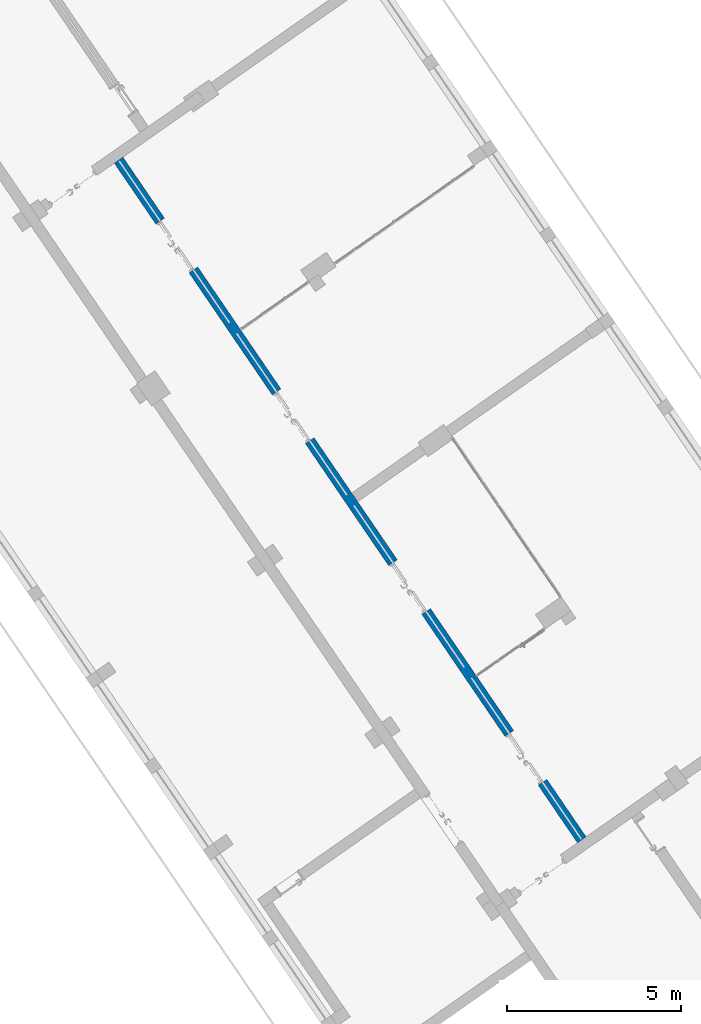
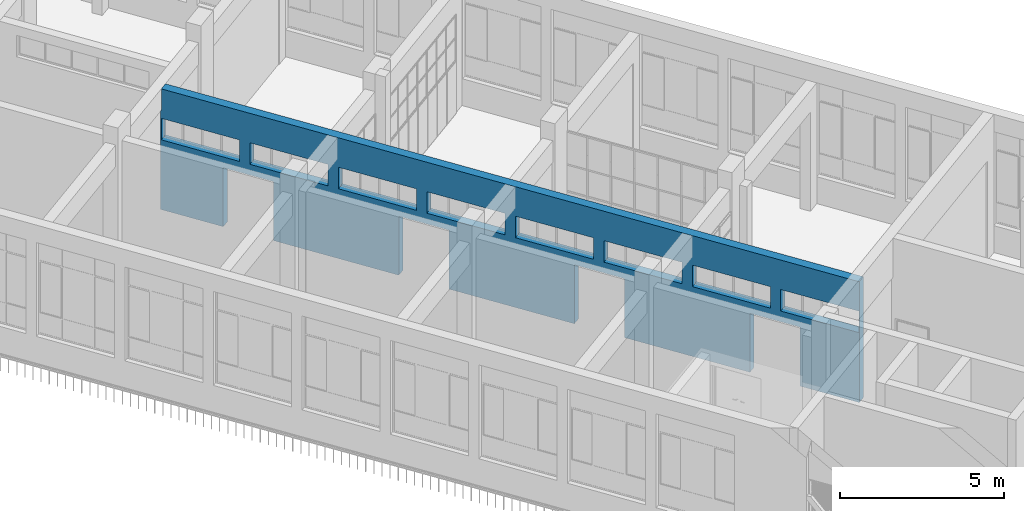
# One storey, part 122 of 157: 1 wall, 12 openings.
"""IFC2X3 building model written with IfcOpenShell, lengths in millimetres."""

from ifc_helpers import new_model, entity, si_unit, converted_unit, derived_unit, direction, frame, frame_2d, origin, place, context, subcontext, project, spatial, rectangle, extrude, faceted_brep, material, layer, layer_set, type_object, element, save


model = new_model("IFC2X3")

# Units and contexts
model_context = context("Model", 3, precision=0.01, world=origin(), true_north=direction((6.123031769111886e-17, 1.0)))
body_context = subcontext(model_context, "Body", "Model", "MODEL_VIEW")
ifc_project = project(units=[si_unit("LENGTHUNIT", "METRE", prefix="MILLI"), si_unit("AREAUNIT", "SQUARE_METRE"), si_unit("VOLUMEUNIT", "CUBIC_METRE"), converted_unit("PLANEANGLEUNIT", "DEGREE", entity("IfcRatioMeasure", 0.017453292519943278), si_unit("PLANEANGLEUNIT", "RADIAN"), dimensions=[0, 0, 0, 0, 0, 0, 0]), si_unit("MASSUNIT", "GRAM", prefix="KILO"), derived_unit("MASSDENSITYUNIT", [(si_unit("MASSUNIT", "GRAM", prefix="KILO"), 1), (si_unit("LENGTHUNIT", "METRE"), -3)]), derived_unit("MOMENTOFINERTIAUNIT", [(si_unit("LENGTHUNIT", "METRE"), 4)]), si_unit("TIMEUNIT", "SECOND"), si_unit("FREQUENCYUNIT", "HERTZ"), si_unit("THERMODYNAMICTEMPERATUREUNIT", "DEGREE_CELSIUS"), derived_unit("THERMALTRANSMITTANCEUNIT", [(si_unit("MASSUNIT", "GRAM", prefix="KILO"), 1), (si_unit("THERMODYNAMICTEMPERATUREUNIT", "KELVIN"), -1), (si_unit("TIMEUNIT", "SECOND"), -3)]), derived_unit("THERMALCONDUCTANCEUNIT", [(si_unit("MASSUNIT", "GRAM", prefix="KILO"), 1), (si_unit("LENGTHUNIT", "METRE"), 1), (si_unit("THERMODYNAMICTEMPERATUREUNIT", "KELVIN"), -1), (si_unit("TIMEUNIT", "SECOND"), -3)]), derived_unit("VOLUMETRICFLOWRATEUNIT", [(si_unit("LENGTHUNIT", "METRE"), 3), (si_unit("TIMEUNIT", "SECOND"), -1)]), derived_unit("MASSFLOWRATEUNIT", [(si_unit("MASSUNIT", "GRAM", prefix="KILO"), 1), (si_unit("TIMEUNIT", "SECOND"), -1)]), derived_unit("ROTATIONALFREQUENCYUNIT", [(si_unit("TIMEUNIT", "SECOND"), -1)]), si_unit("ELECTRICCURRENTUNIT", "AMPERE"), si_unit("ELECTRICVOLTAGEUNIT", "VOLT"), si_unit("POWERUNIT", "WATT"), converted_unit("FORCEUNIT", "KIP", entity("IfcRatioMeasure", 2.088543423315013e-05), si_unit("FORCEUNIT", "NEWTON"), dimensions=[1, 1, -2, 0, 0, 0, 0]), si_unit("ILLUMINANCEUNIT", "LUX"), si_unit("LUMINOUSFLUXUNIT", "LUMEN"), si_unit("LUMINOUSINTENSITYUNIT", "CANDELA"), derived_unit("USERDEFINED", [(si_unit("MASSUNIT", "GRAM", prefix="KILO"), -1), (si_unit("LENGTHUNIT", "METRE"), -2), (si_unit("TIMEUNIT", "SECOND"), 3), (si_unit("LUMINOUSFLUXUNIT", "LUMEN"), 1)]), derived_unit("USERDEFINED", [(si_unit("MASSUNIT", "GRAM", prefix="KILO"), 1), (si_unit("LENGTHUNIT", "METRE"), 3), (si_unit("TIMEUNIT", "SECOND"), -3), (si_unit("ELECTRICCURRENTUNIT", "AMPERE"), -2)]), derived_unit("USERDEFINED", [(si_unit("LENGTHUNIT", "METRE"), 2), (si_unit("TIMEUNIT", "SECOND"), -2)]), derived_unit("SOUNDPOWERUNIT", [(si_unit("MASSUNIT", "GRAM", prefix="KILO"), 1), (si_unit("LENGTHUNIT", "METRE"), 2), (si_unit("TIMEUNIT", "SECOND"), -3)]), derived_unit("SOUNDPRESSUREUNIT", [(si_unit("MASSUNIT", "GRAM", prefix="KILO"), 1), (si_unit("LENGTHUNIT", "METRE"), -1), (si_unit("TIMEUNIT", "SECOND"), -2)]), derived_unit("LINEARVELOCITYUNIT", [(si_unit("LENGTHUNIT", "METRE"), 1), (si_unit("TIMEUNIT", "SECOND"), -1)]), si_unit("PRESSUREUNIT", "PASCAL"), derived_unit("USERDEFINED", [(si_unit("LENGTHUNIT", "METRE"), -2), (si_unit("MASSUNIT", "GRAM", prefix="KILO"), 1), (si_unit("TIMEUNIT", "SECOND"), -2)]), derived_unit("LINEARFORCEUNIT", [(si_unit("MASSUNIT", "GRAM", prefix="KILO"), 1), (si_unit("LENGTHUNIT", "METRE"), 1), (si_unit("TIMEUNIT", "SECOND"), -2), (si_unit("LENGTHUNIT", "METRE"), -1)]), derived_unit("PLANARFORCEUNIT", [(si_unit("MASSUNIT", "GRAM", prefix="KILO"), 1), (si_unit("LENGTHUNIT", "METRE"), 1), (si_unit("TIMEUNIT", "SECOND"), -2), (si_unit("LENGTHUNIT", "METRE"), -2)]), derived_unit("SPECIFICHEATCAPACITYUNIT", [(si_unit("LENGTHUNIT", "METRE"), 2), (si_unit("TIMEUNIT", "SECOND"), -2), (si_unit("THERMODYNAMICTEMPERATUREUNIT", "KELVIN"), -1)]), derived_unit("VAPORPERMEABILITYUNIT", [(si_unit("TIMEUNIT", "SECOND"), 1), (si_unit("LENGTHUNIT", "METRE"), -1)]), derived_unit("DYNAMICVISCOSITYUNIT", [(si_unit("MASSUNIT", "GRAM", prefix="KILO"), 1), (si_unit("LENGTHUNIT", "METRE"), -1), (si_unit("TIMEUNIT", "SECOND"), -1)]), derived_unit("THERMALEXPANSIONCOEFFICIENTUNIT", [(si_unit("THERMODYNAMICTEMPERATUREUNIT", "KELVIN"), -1)])], contexts=[model_context])

# Site, building, storey
site_placement = place(None, frame((0.0, 0.0, 0.0), z_axis=(0.0, 0.0, 1.0), x_axis=(0.8191520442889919, 0.5735764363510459, 0.0)))
site = spatial("IfcSite", under=ifc_project, at=site_placement, Name="Default", CompositionType="ELEMENT")
building_placement = place(site_placement, origin())
building = spatial("IfcBuilding", under=site, at=building_placement, CompositionType="ELEMENT")
storey_placement = place(building_placement, origin())
storey = spatial("IfcBuildingStorey", under=building, at=storey_placement, Name="1.EG +0.00", CompositionType="ELEMENT", Elevation=-4.331468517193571e-12)

# Wall, openings
ifc_material = material(Name="Analytical Wall Surface_CJC")
ifc_layer = layer(ifc_material, 300.0)
ifc_layer_set = layer_set([ifc_layer], Name="Basic Wall:Wand_Innen_30")
wall_type = type_object("IfcWallType", Name="Basic Wall:Wand_Innen_30", PredefinedType="STANDARD", material=ifc_layer_set)
wall_placement = place(storey_placement, frame((-214611.61378315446, 61569.44947620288, 0.0), z_axis=(0.0, 0.0, 1.0), x_axis=(0.012729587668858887, 0.9999189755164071, 0.0)))
wall = element("IfcWall", 1, at=wall_placement, inside=storey, type_object=wall_type, Name="Basic Wall:Wand_Innen_30", ObjectType="Basic Wall:Wand_Innen_30", context=body_context, shape_type="Brep", body=[
    faceted_brep([(23653.747045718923, -150.0, 3400.0), (23653.747045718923, -150.0, 2600.0), (21003.747045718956, -150.0, 2600.0), (21003.747045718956, -150.0, 3400.0), (20653.74704571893, -150.0, 3400.0), (20653.74704571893, -150.0, 2600.0), (18003.747045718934, -150.0, 2600.0), (18003.747045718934, -150.0, 3400.0), (14653.747045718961, -150.0, 3400.0), (14653.747045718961, -150.0, 2600.0), (12003.747045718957, -150.0, 2600.0), (12003.747045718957, -150.0, 3400.0), (17653.74704571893, -150.0, 3400.0), (17653.747045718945, -150.0, 2600.0), (15003.74704571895, -150.0, 2600.0), (15003.74704571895, -150.0, 3400.0), (8653.747045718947, -150.0, 3400.0), (8653.747045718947, -150.0, 2600.0), (6003.747045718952, -150.0, 2600.0), (6003.747045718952, -150.0, 3400.0), (11653.747045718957, -150.0, 3400.0), (11653.747045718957, -150.0, 2600.0), (9003.747045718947, -150.0, 2600.0), (9003.747045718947, -150.0, 3400.0), (2663.7470457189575, -150.0, 3400.0), (2663.7470457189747, -150.0, 2600.0), (13.747045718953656, -150.0, 2600.0), (13.747045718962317, -150.0, 3400.0), (5653.747045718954, -150.0, 3400.0), (5653.747045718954, -150.0, 2600.0), (3003.7470457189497, -150.0, 2600.0), (3003.7470457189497, -150.0, 3400.0), (23655.73557005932, -150.0, 4500.0), (18029.793584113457, -150.0, 4500.0), (17679.76522324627, -150.0, 4500.0), (12004.791558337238, -150.0, 4500.0), (11654.76319747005, -150.0, 4500.0), (6004.791558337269, -150.0, 4500.0), (5654.76319747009, -150.0, 4500.0), (3.81918574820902, -150.0, 4500.0), (3.819185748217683, -150.0, 0.0), (2006.9777822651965, -150.0, 0.0), (2006.9777822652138, -150.0, 2200.0), (3706.9777822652, -150.0, 2200.0), (3706.9777822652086, -150.0, 0.0), (7956.027782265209, -150.0, 0.0), (7956.027782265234, -150.0, 2200.0), (9656.02778226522, -150.0, 2200.0), (9656.027782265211, -150.0, 0.0), (11679.765223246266, -150.0, 0.0), (11979.78953256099, -150.0, 0.0), (13905.077782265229, -150.0, 0.0), (13905.077782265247, -150.0, 2200.0), (15605.077782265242, -150.0, 2200.0), (15605.077782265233, -150.0, 0.0), (19854.12778226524, -150.0, 0.0), (19854.12778226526, -150.0, 2200.0), (21554.127782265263, -150.0, 2200.0), (21554.127782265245, -150.0, 0.0), (23680.73759583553, -150.0, 0.0), (23680.73759583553, -150.0, 3700.0), (23655.73557005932, -150.0, 3700.0), (23653.74704571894, 150.0, 2600.0), (23653.74704571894, 150.0, 3400.0), (21003.747045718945, 150.0, 3400.0), (21003.747045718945, 150.0, 2600.0), (20653.74704571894, 150.0, 2600.0), (20653.74704571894, 150.0, 3400.0), (18003.747045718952, 150.0, 3400.0), (18003.747045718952, 150.0, 2600.0), (14653.747045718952, 150.0, 2600.0), (14653.747045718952, 150.0, 3400.0), (12003.747045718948, 150.0, 3400.0), (12003.747045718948, 150.0, 2600.0), (17653.747045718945, 150.0, 2600.0), (17653.747045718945, 150.0, 3400.0), (15003.747045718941, 150.0, 3400.0), (15003.74704571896, 150.0, 2600.0), (8653.747045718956, 150.0, 2600.0), (8653.747045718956, 150.0, 3400.0), (6003.747045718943, 150.0, 3400.0), (6003.747045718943, 150.0, 2600.0), (11653.747045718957, 150.0, 2600.0), (11653.747045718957, 150.0, 3400.0), (9003.747045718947, 150.0, 3400.0), (9003.747045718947, 150.0, 2600.0), (2663.747045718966, 150.0, 2600.0), (2663.7470457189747, 150.0, 3400.0), (13.747045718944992, 150.0, 3400.0), (13.747045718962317, 150.0, 2600.0), (5653.747045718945, 150.0, 2600.0), (5653.747045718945, 150.0, 3400.0), (3003.7470457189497, 150.0, 3400.0), (3003.7470457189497, 150.0, 2600.0), (0.0, 150.0, 4500.0), (5650.944011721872, 150.0, 4500.0), (6000.97237258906, 150.0, 4500.0), (11650.944011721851, 150.0, 4500.0), (12000.972372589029, 150.0, 4500.0), (17675.946037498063, 150.0, 4500.0), (18025.974398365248, 150.0, 4500.0), (23651.91638431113, 150.0, 4500.0), (23651.916384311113, 150.0, 3700.0), (23676.91841008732, 150.0, 3700.0), (23676.91841008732, 150.0, 0.0), (21554.127782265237, 150.0, 0.0), (21554.12778226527, 150.0, 2200.0), (19854.12778226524, 150.0, 2200.0), (19854.12778226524, 150.0, 0.0), (15605.077782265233, 150.0, 0.0), (15605.077782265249, 150.0, 2200.0), (13905.07778226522, 150.0, 2200.0), (13905.077782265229, 150.0, 0.0), (9656.02778226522, 150.0, 0.0), (9656.02778226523, 150.0, 2200.0), (7956.027782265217, 150.0, 2200.0), (7956.027782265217, 150.0, 0.0), (3706.9777822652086, 150.0, 0.0), (3706.9777822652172, 150.0, 2200.0), (2006.9777822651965, 150.0, 2200.0), (2006.9777822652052, 150.0, 0.0), (0.0, 150.0, 0.0)], [[[0, 1, 2, 3], [4, 5, 6, 7], [8, 9, 10, 11], [12, 13, 14, 15], [16, 17, 18, 19], [20, 21, 22, 23], [24, 25, 26, 27], [28, 29, 30, 31], [32, 33, 34, 35, 36, 37, 38, 39, 40, 41, 42, 43, 44, 45, 46, 47, 48, 49, 50, 51, 52, 53, 54, 55, 56, 57, 58, 59, 60, 61]], [[62, 63, 64, 65], [66, 67, 68, 69], [70, 71, 72, 73], [74, 75, 76, 77], [78, 79, 80, 81], [82, 83, 84, 85], [86, 87, 88, 89], [90, 91, 92, 93], [94, 95, 96, 97, 98, 99, 100, 101, 102, 103, 104, 105, 106, 107, 108, 109, 110, 111, 112, 113, 114, 115, 116, 117, 118, 119, 120, 121]], [[40, 121, 120, 41]], [[39, 38, 37, 36, 35, 34, 33, 32, 101, 100, 99, 98, 97, 96, 95, 94]], [[61, 60, 103, 102]], [[59, 104, 103, 60]], [[101, 32, 61, 102]], [[53, 110, 109, 54]], [[110, 53, 52, 111]], [[111, 52, 51, 112]], [[57, 106, 105, 58]], [[106, 57, 56, 107]], [[107, 56, 55, 108]], [[47, 114, 113, 48]], [[114, 47, 46, 115]], [[115, 46, 45, 116]], [[43, 118, 117, 44]], [[118, 43, 42, 119]], [[119, 42, 41, 120]], [[39, 94, 121, 40]], [[63, 62, 1, 0]], [[64, 63, 0, 3]], [[65, 64, 3, 2]], [[62, 65, 2, 1]], [[67, 66, 5, 4]], [[68, 67, 4, 7]], [[69, 68, 7, 6]], [[66, 69, 6, 5]], [[71, 70, 9, 8]], [[72, 71, 8, 11]], [[73, 72, 11, 10]], [[70, 73, 10, 9]], [[75, 74, 13, 12]], [[76, 75, 12, 15]], [[77, 76, 15, 14]], [[74, 77, 14, 13]], [[79, 78, 17, 16]], [[80, 79, 16, 19]], [[81, 80, 19, 18]], [[78, 81, 18, 17]], [[83, 82, 21, 20]], [[84, 83, 20, 23]], [[85, 84, 23, 22]], [[82, 85, 22, 21]], [[86, 25, 24, 87]], [[87, 24, 27, 88]], [[88, 27, 26, 89]], [[25, 86, 89, 26]], [[91, 90, 29, 28]], [[92, 91, 28, 31]], [[93, 92, 31, 30]], [[90, 93, 30, 29]], [[54, 109, 108, 55]], [[104, 59, 58, 105]], [[116, 45, 44, 117]], [[112, 51, 50, 49, 48, 113]]], outer=[[False, False, False, False, False, False, False, False, True], [False, False, False, False, False, False, False, False, True], [True], [True], [True], [True], [True], [True], [True], [True], [True], [True], [True], [True], [True], [True], [True], [True], [True], [True], [True], [True], [True], [True], [True], [True], [True], [True], [True], [True], [True], [True], [True], [True], [True], [True], [True], [True], [True], [True], [True], [True], [True], [True], [True], [True], [True], [True], [True], [True], [True], [True], [True], [True], [True], [True]]),
])
opening_1_placement = place(wall_placement, frame((13905.077782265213, -150.0, 0.0)))
element("IfcOpeningElement", 2, at=opening_1_placement, cuts=wall, Name="M_Door-Passage-Double-Flush:160x210:1", ObjectType="Opening", context=body_context, shape_type="SweptSolid", body=[
    extrude(rectangle(XDim=2200.0, YDim=1699.9999999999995, at=frame_2d((1100.0, 849.9999999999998), x_axis=(1.0, 0.0))), frame((0.0, 0.0, 0.0), z_axis=(0.0, 1.0, 0.0), x_axis=(0.0, 0.0, 1.0)), (0.0, 0.0, 1.0), 299.9999999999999),
])
opening_2_placement = place(wall_placement, frame((19854.127782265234, -150.0, 0.0)))
element("IfcOpeningElement", 3, at=opening_2_placement, cuts=wall, Name="M_Door-Passage-Double-Flush:160x210:1", ObjectType="Opening", context=body_context, shape_type="SweptSolid", body=[
    extrude(rectangle(XDim=2200.0, YDim=1699.9999999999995, at=frame_2d((1100.0, 849.9999999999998), x_axis=(1.0, 0.0))), frame((0.0, 0.0, 0.0), z_axis=(0.0, 1.0, 0.0), x_axis=(0.0, 0.0, 1.0)), (0.0, 0.0, 1.0), 299.9999999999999),
])
opening_3_placement = place(wall_placement, frame((7956.0277822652, -150.0, 0.0)))
element("IfcOpeningElement", 4, at=opening_3_placement, cuts=wall, Name="M_Door-Passage-Double-Flush:160x210:1", ObjectType="Opening", context=body_context, shape_type="SweptSolid", body=[
    extrude(rectangle(XDim=2200.0, YDim=1699.9999999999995, at=frame_2d((1100.0, 849.9999999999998), x_axis=(1.0, 0.0))), frame((0.0, 0.0, 0.0), z_axis=(0.0, 1.0, 0.0), x_axis=(0.0, 0.0, 1.0)), (0.0, 0.0, 1.0), 299.9999999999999),
])
opening_4_placement = place(wall_placement, frame((2006.977782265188, -150.0, 0.0)))
element("IfcOpeningElement", 5, at=opening_4_placement, cuts=wall, Name="M_Door-Passage-Double-Flush:160x210:1", ObjectType="Opening", context=body_context, shape_type="SweptSolid", body=[
    extrude(rectangle(XDim=2200.0, YDim=1699.9999999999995, at=frame_2d((1100.0, 849.9999999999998), x_axis=(1.0, 0.0))), frame((0.0, 0.0, 0.0), z_axis=(0.0, 1.0, 0.0), x_axis=(0.0, 0.0, 1.0)), (0.0, 0.0, 1.0), 299.9999999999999),
])
opening_5_placement = place(wall_placement, frame((23653.747045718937, 150.0, 2600.0)))
element("IfcOpeningElement", 6, at=opening_5_placement, cuts=wall, Name="Fenster_Corridor265x80x260_CJC:Fenster_Corridor265x80x260_CJC:1", ObjectType="Opening", context=body_context, shape_type="SweptSolid", body=[
    extrude(rectangle(XDim=799.999999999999, YDim=2649.9999999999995, at=frame_2d((399.9999999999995, 1324.9999999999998), x_axis=(1.0, 0.0))), frame((0.0, 0.0, 0.0), z_axis=(0.0, -1.0, 0.0), x_axis=(0.0, 0.0, 1.0)), (0.0, 0.0, 1.0), 299.9999999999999),
])
opening_6_placement = place(wall_placement, frame((20653.747045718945, 150.0, 2600.0)))
element("IfcOpeningElement", 7, at=opening_6_placement, cuts=wall, Name="Fenster_Corridor265x80x260_CJC:Fenster_Corridor265x80x260_CJC:1", ObjectType="Opening", context=body_context, shape_type="SweptSolid", body=[
    extrude(rectangle(XDim=799.999999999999, YDim=2649.9999999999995, at=frame_2d((399.9999999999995, 1324.9999999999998), x_axis=(1.0, 0.0))), frame((0.0, 0.0, 0.0), z_axis=(0.0, -1.0, 0.0), x_axis=(0.0, 0.0, 1.0)), (0.0, 0.0, 1.0), 299.9999999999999),
])
opening_7_placement = place(wall_placement, frame((17653.74704571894, 150.0, 2600.0)))
element("IfcOpeningElement", 8, at=opening_7_placement, cuts=wall, Name="Fenster_Corridor265x80x260_CJC:Fenster_Corridor265x80x260_CJC:1", ObjectType="Opening", context=body_context, shape_type="SweptSolid", body=[
    extrude(rectangle(XDim=799.999999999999, YDim=2650.000000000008, at=frame_2d((399.9999999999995, 1325.000000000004), x_axis=(1.0, 0.0))), frame((0.0, 0.0, 0.0), z_axis=(0.0, -1.0, 0.0), x_axis=(0.0, 0.0, 1.0)), (0.0, 0.0, 1.0), 299.9999999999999),
])
opening_8_placement = place(wall_placement, frame((14653.747045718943, 150.0, 2600.0)))
element("IfcOpeningElement", 9, at=opening_8_placement, cuts=wall, Name="Fenster_Corridor265x80x260_CJC:Fenster_Corridor265x80x260_CJC:1", ObjectType="Opening", context=body_context, shape_type="SweptSolid", body=[
    extrude(rectangle(XDim=799.999999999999, YDim=2649.9999999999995, at=frame_2d((399.9999999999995, 1325.0000000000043), x_axis=(1.0, 0.0))), frame((0.0, 0.0, 0.0), z_axis=(0.0, -1.0, 0.0), x_axis=(0.0, 0.0, 1.0)), (0.0, 0.0, 1.0), 299.9999999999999),
])
opening_9_placement = place(wall_placement, frame((11653.747045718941, 150.0, 2600.0)))
element("IfcOpeningElement", 10, at=opening_9_placement, cuts=wall, Name="Fenster_Corridor265x80x260_CJC:Fenster_Corridor265x80x260_CJC:1", ObjectType="Opening", context=body_context, shape_type="SweptSolid", body=[
    extrude(rectangle(XDim=799.999999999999, YDim=2649.9999999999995, at=frame_2d((399.9999999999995, 1325.0000000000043), x_axis=(1.0, 0.0))), frame((0.0, 0.0, 0.0), z_axis=(0.0, -1.0, 0.0), x_axis=(0.0, 0.0, 1.0)), (0.0, 0.0, 1.0), 299.9999999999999),
])
opening_10_placement = place(wall_placement, frame((8653.747045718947, 150.0, 2600.0)))
element("IfcOpeningElement", 11, at=opening_10_placement, cuts=wall, Name="Fenster_Corridor265x80x260_CJC:Fenster_Corridor265x80x260_CJC:1", ObjectType="Opening", context=body_context, shape_type="SweptSolid", body=[
    extrude(rectangle(XDim=799.999999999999, YDim=2649.9999999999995, at=frame_2d((399.9999999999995, 1325.000000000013), x_axis=(1.0, 0.0))), frame((0.0, 0.0, 0.0), z_axis=(0.0, -1.0, 0.0), x_axis=(0.0, 0.0, 1.0)), (0.0, 0.0, 1.0), 299.9999999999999),
])
opening_11_placement = place(wall_placement, frame((5653.74704571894, 150.0, 2600.0)))
element("IfcOpeningElement", 12, at=opening_11_placement, cuts=wall, Name="Fenster_Corridor265x80x260_CJC:Fenster_Corridor265x80x260_CJC:1", ObjectType="Opening", context=body_context, shape_type="SweptSolid", body=[
    extrude(rectangle(XDim=799.999999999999, YDim=2649.9999999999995, at=frame_2d((399.9999999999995, 1324.9999999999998), x_axis=(1.0, 0.0))), frame((0.0, 0.0, 0.0), z_axis=(0.0, -1.0, 0.0), x_axis=(0.0, 0.0, 1.0)), (0.0, 0.0, 1.0), 299.9999999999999),
])
opening_12_placement = place(wall_placement, frame((2663.747045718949, 150.0, 2600.0)))
element("IfcOpeningElement", 13, at=opening_12_placement, cuts=wall, Name="Fenster_Corridor265x80x260_CJC:Fenster_Corridor265x80x260_CJC:1", ObjectType="Opening", context=body_context, shape_type="SweptSolid", body=[
    extrude(rectangle(XDim=799.999999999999, YDim=2649.9999999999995, at=frame_2d((399.9999999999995, 1325.000000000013), x_axis=(1.0, 0.0))), frame((0.0, 0.0, 0.0), z_axis=(0.0, -1.0, 0.0), x_axis=(0.0, 0.0, 1.0)), (0.0, 0.0, 1.0), 299.9999999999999),
])

save(model, "model.ifc")
